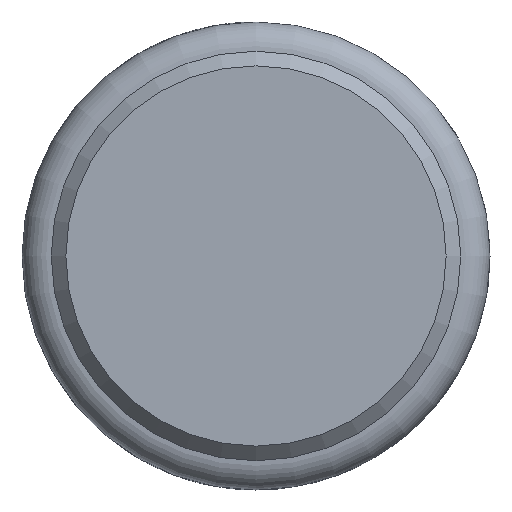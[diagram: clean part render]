
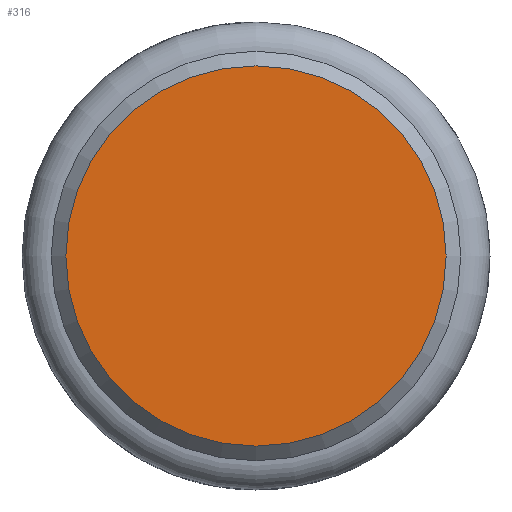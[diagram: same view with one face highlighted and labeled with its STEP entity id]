
A CAD part, left-side view. The second image highlights one B-rep face of the part: STEP entity #316.
In plain terms, the highlighted planar face has unit normal (-1, 0, 0).
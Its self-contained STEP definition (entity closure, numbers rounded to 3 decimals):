
#138 = PLANE ( 'NONE',  #645 ) ;
#147 = CIRCLE ( 'NONE', #468, 6.5 ) ;
#165 = EDGE_CURVE ( 'NONE', #258, #258, #147, .T. ) ;
#258 = VERTEX_POINT ( 'NONE', #735 ) ;
#316 = ADVANCED_FACE ( 'NONE', ( #663 ), #138, .F. ) ;
#343 = ORIENTED_EDGE ( 'NONE', *, *, #165, .T. ) ;
#378 = CARTESIAN_POINT ( 'NONE',  ( 0., 0., -8. ) ) ;
#468 = AXIS2_PLACEMENT_3D ( 'NONE', #971, #750, #583 ) ;
#583 = DIRECTION ( 'NONE',  ( 0., 0., -1. ) ) ;
#594 = DIRECTION ( 'NONE',  ( 0., 0., -1. ) ) ;
#645 = AXIS2_PLACEMENT_3D ( 'NONE', #378, #913, #594 ) ;
#663 = FACE_OUTER_BOUND ( 'NONE', #984, .T. ) ;
#735 = CARTESIAN_POINT ( 'NONE',  ( 0., 0., -6.5 ) ) ;
#750 = DIRECTION ( 'NONE',  ( -1., 0., 0. ) ) ;
#913 = DIRECTION ( 'NONE',  ( 1., 0., 0. ) ) ;
#971 = CARTESIAN_POINT ( 'NONE',  ( 0., 0., 0. ) ) ;
#984 = EDGE_LOOP ( 'NONE', ( #343 ) ) ;
